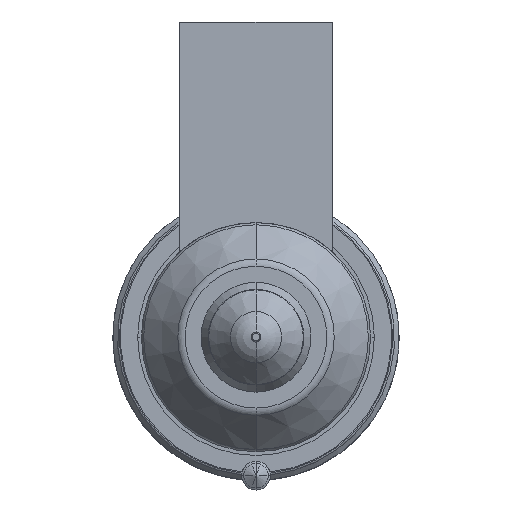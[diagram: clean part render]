
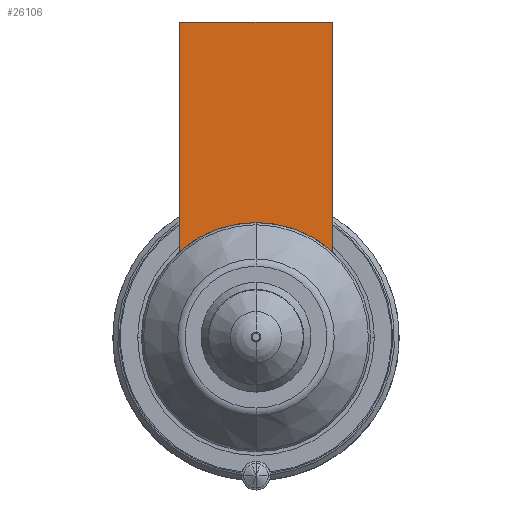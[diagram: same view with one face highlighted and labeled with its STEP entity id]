
A CAD part, front view. The second image highlights one B-rep face of the part: STEP entity #26106.
In plain terms, the highlighted planar face has unit normal (0, -1, 0).
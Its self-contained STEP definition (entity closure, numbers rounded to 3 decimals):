
#25188=DIRECTION('',(0.,0.,-1.));
#25189=VECTOR('',#25188,24.056);
#25190=CARTESIAN_POINT('',(-8.,-56.,33.));
#25191=LINE('',#25190,#25189);
#25228=DIRECTION('',(1.,0.,0.));
#25229=VECTOR('',#25228,16.);
#25230=CARTESIAN_POINT('',(-8.,-56.,33.));
#25231=LINE('',#25230,#25229);
#25235=CARTESIAN_POINT('',(0.,-56.,0.));
#25236=DIRECTION('',(0.,-1.,0.));
#25237=DIRECTION('',(0.667,0.,0.745));
#25238=AXIS2_PLACEMENT_3D('',#25235,#25236,#25237);
#25243=CARTESIAN_POINT('',(0.,-56.,0.));
#25244=DIRECTION('',(0.,-1.,0.));
#25245=DIRECTION('',(0.,0.,1.));
#25246=AXIS2_PLACEMENT_3D('',#25243,#25244,#25245);
#25279=DIRECTION('',(0.,0.,-1.));
#25280=VECTOR('',#25279,24.056);
#25281=CARTESIAN_POINT('',(8.,-56.,33.));
#25282=LINE('',#25281,#25280);
#25942=CARTESIAN_POINT('',(-8.,-56.,33.));
#25943=VERTEX_POINT('',#25942);
#25948=CARTESIAN_POINT('',(8.,-56.,33.));
#25949=VERTEX_POINT('',#25948);
#25952=CARTESIAN_POINT('',(-8.,-56.,8.944));
#25953=VERTEX_POINT('',#25952);
#25956=CARTESIAN_POINT('',(8.,-56.,8.944));
#25957=VERTEX_POINT('',#25956);
#26025=CARTESIAN_POINT('',(0.,-56.,12.));
#26026=VERTEX_POINT('',#26025);
#26091=CARTESIAN_POINT('',(-8.,-56.,33.));
#26092=DIRECTION('',(0.,-1.,0.));
#26093=DIRECTION('',(0.,0.,-1.));
#26094=AXIS2_PLACEMENT_3D('',#26091,#26092,#26093);
#26095=PLANE('',#26094);
#26096=ORIENTED_EDGE('',*,*,#26039,.F.);
#26098=ORIENTED_EDGE('',*,*,#26097,.T.);
#26100=ORIENTED_EDGE('',*,*,#26099,.T.);
#26102=ORIENTED_EDGE('',*,*,#26101,.T.);
#26103=ORIENTED_EDGE('',*,*,#26071,.T.);
#26104=EDGE_LOOP('',(#26096,#26098,#26100,#26102,#26103));
#26105=FACE_OUTER_BOUND('',#26104,.F.);
#26106=ADVANCED_FACE('',(#26105),#26095,.T.);
#25239=CIRCLE('',#25238,12.);
#25247=CIRCLE('',#25246,12.);
#26039=EDGE_CURVE('',#25943,#25953,#25191,.T.);
#26071=EDGE_CURVE('',#26026,#25953,#25247,.T.);
#26097=EDGE_CURVE('',#25943,#25949,#25231,.T.);
#26099=EDGE_CURVE('',#25949,#25957,#25282,.T.);
#26101=EDGE_CURVE('',#25957,#26026,#25239,.T.);
